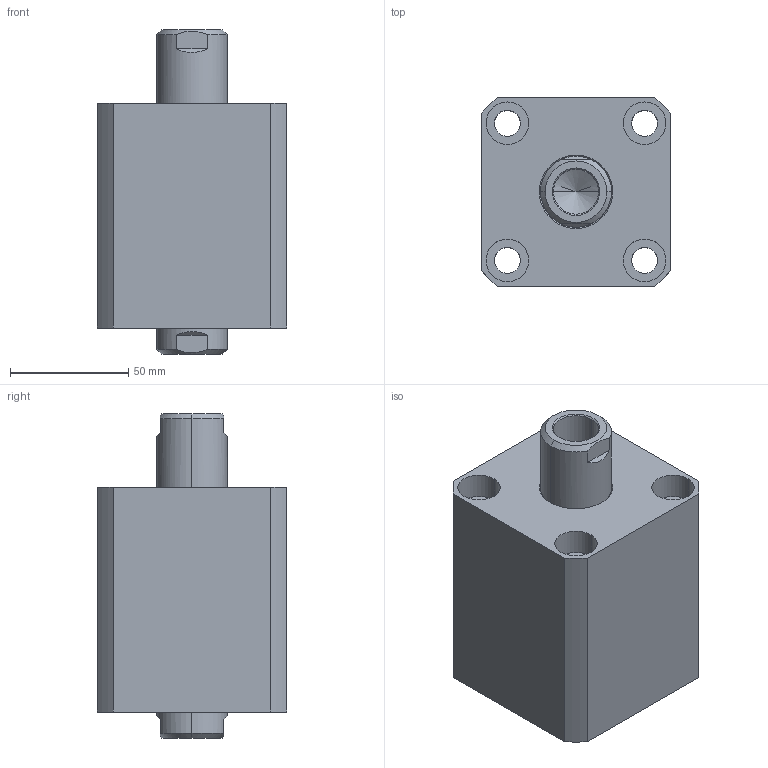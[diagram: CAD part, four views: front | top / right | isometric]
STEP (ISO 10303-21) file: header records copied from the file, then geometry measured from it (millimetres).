
FILE_DESCRIPTION (( 'STEP AP203' ), '1' );
FILE_NAME ('CHTB-SW50-20N.STEP', '2018-05-21T05:33:57', ( '' ), ( '' ), 'SwSTEP 2.0', 'SolidWorks 2015', '' );
FILE_SCHEMA (( 'CONFIG_CONTROL_DESIGN' ));
Length unit declared in the file: millimetre
Products named in the file (4): 掛极SW50-20N; 活塞杆SW50-20N; ヶ裔; CHTB-SW50-20N
Assembly tree (3 placements, depth 2):
  CHTB-SW50-20N
    掛极SW50-20N
    活塞杆SW50-20N
    ヶ裔
Bounding box: 80 x 80 x 137 mm (x, y, z)
Volume: 527460.7 mm3; surface area: 107928 mm2
Topology: 3 solids, 3 shells, 225 faces, 528 edges, 331 vertices
Faces by surface type: cylinder 118, plane 46, cone 33, torus 24, bspline 4
Entity records: 9698 total; most frequent: CARTESIAN_POINT 4235, DIRECTION 1104, ORIENTED_EDGE 1040, EDGE_CURVE 520, AXIS2_PLACEMENT_3D 462, VERTEX_POINT 331, EDGE_LOOP 271, CIRCLE 235
